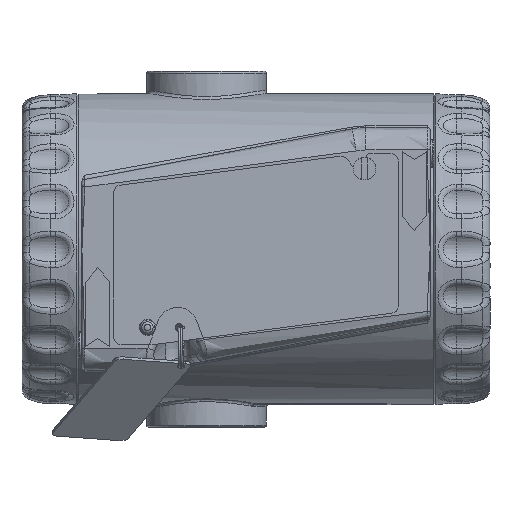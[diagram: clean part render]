
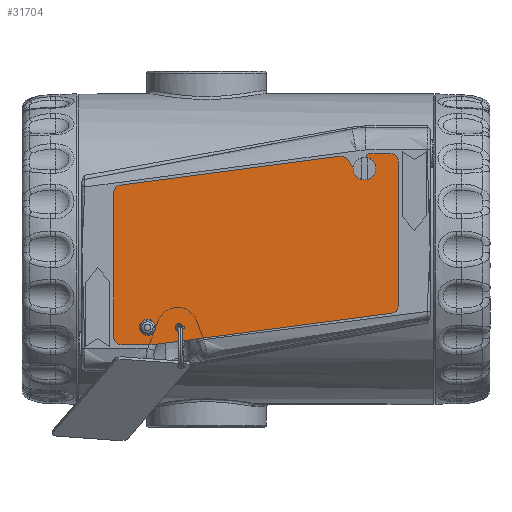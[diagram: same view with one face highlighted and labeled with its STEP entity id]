
A CAD part, left-side view. The second image highlights one B-rep face of the part: STEP entity #31704.
In plain terms, the highlighted planar face has unit normal (-1, 0, 0) as drawn and (0, 0, 1) by its records, which use the part's own axes.
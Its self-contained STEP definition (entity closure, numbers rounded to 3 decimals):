
#2472=FACE_BOUND('',#10369,.T.);
#2473=FACE_BOUND('',#10370,.T.);
#2994=PLANE('',#35740);
#4462=LINE('',#74141,#5971);
#4466=LINE('',#74153,#5975);
#4470=LINE('',#74165,#5979);
#4474=LINE('',#74177,#5983);
#4478=LINE('',#74189,#5987);
#4481=LINE('',#74195,#5990);
#4485=LINE('',#74207,#5994);
#4489=LINE('',#74218,#5998);
#5971=VECTOR('',#44258,10.);
#5975=VECTOR('',#44270,10.);
#5979=VECTOR('',#44282,10.);
#5983=VECTOR('',#44294,10.);
#5987=VECTOR('',#44306,10.);
#5990=VECTOR('',#44311,10.);
#5994=VECTOR('',#44323,10.);
#5998=VECTOR('',#44335,10.);
#8350=FACE_OUTER_BOUND('',#10368,.T.);
#10368=EDGE_LOOP('',(#29350,#29351,#29352,#29353,#29354,#29355,#29356,#29357,
#29358,#29359,#29360,#29361,#29362,#29363,#29364));
#10369=EDGE_LOOP('',(#29365));
#10370=EDGE_LOOP('',(#29366));
#12397=CIRCLE('',#35706,1.35);
#12399=CIRCLE('',#35709,1.);
#12400=CIRCLE('',#35711,2.);
#12402=CIRCLE('',#35715,2.);
#12404=CIRCLE('',#35719,1.);
#12406=CIRCLE('',#35723,2.);
#12408=CIRCLE('',#35727,2.);
#12410=CIRCLE('',#35732,2.);
#12412=CIRCLE('',#35736,2.);
#15276=VERTEX_POINT('',#74121);
#15278=VERTEX_POINT('',#74127);
#15279=VERTEX_POINT('',#74131);
#15280=VERTEX_POINT('',#74132);
#15283=VERTEX_POINT('',#74140);
#15285=VERTEX_POINT('',#74146);
#15287=VERTEX_POINT('',#74152);
#15289=VERTEX_POINT('',#74158);
#15291=VERTEX_POINT('',#74164);
#15293=VERTEX_POINT('',#74170);
#15295=VERTEX_POINT('',#74176);
#15297=VERTEX_POINT('',#74182);
#15299=VERTEX_POINT('',#74188);
#15301=VERTEX_POINT('',#74194);
#15303=VERTEX_POINT('',#74200);
#15305=VERTEX_POINT('',#74206);
#15307=VERTEX_POINT('',#74212);
#19958=EDGE_CURVE('',#15276,#15276,#12397,.T.);
#19961=EDGE_CURVE('',#15278,#15278,#12399,.T.);
#19962=EDGE_CURVE('',#15279,#15280,#12400,.T.);
#19966=EDGE_CURVE('',#15280,#15283,#4462,.T.);
#19969=EDGE_CURVE('',#15283,#15285,#12402,.T.);
#19972=EDGE_CURVE('',#15285,#15287,#4466,.T.);
#19975=EDGE_CURVE('',#15287,#15289,#12404,.T.);
#19978=EDGE_CURVE('',#15289,#15291,#4470,.T.);
#19981=EDGE_CURVE('',#15291,#15293,#12406,.T.);
#19984=EDGE_CURVE('',#15293,#15295,#4474,.T.);
#19987=EDGE_CURVE('',#15295,#15297,#12408,.T.);
#19990=EDGE_CURVE('',#15297,#15299,#4478,.T.);
#19993=EDGE_CURVE('',#15299,#15301,#4481,.T.);
#19996=EDGE_CURVE('',#15301,#15303,#12410,.T.);
#19999=EDGE_CURVE('',#15303,#15305,#4485,.T.);
#20002=EDGE_CURVE('',#15305,#15307,#12412,.T.);
#20005=EDGE_CURVE('',#15307,#15279,#4489,.T.);
#29350=ORIENTED_EDGE('',*,*,#19962,.F.);
#29351=ORIENTED_EDGE('',*,*,#20005,.F.);
#29352=ORIENTED_EDGE('',*,*,#20002,.F.);
#29353=ORIENTED_EDGE('',*,*,#19999,.F.);
#29354=ORIENTED_EDGE('',*,*,#19996,.F.);
#29355=ORIENTED_EDGE('',*,*,#19993,.F.);
#29356=ORIENTED_EDGE('',*,*,#19990,.F.);
#29357=ORIENTED_EDGE('',*,*,#19987,.F.);
#29358=ORIENTED_EDGE('',*,*,#19984,.F.);
#29359=ORIENTED_EDGE('',*,*,#19981,.F.);
#29360=ORIENTED_EDGE('',*,*,#19978,.F.);
#29361=ORIENTED_EDGE('',*,*,#19975,.F.);
#29362=ORIENTED_EDGE('',*,*,#19972,.F.);
#29363=ORIENTED_EDGE('',*,*,#19969,.F.);
#29364=ORIENTED_EDGE('',*,*,#19966,.F.);
#29365=ORIENTED_EDGE('',*,*,#19958,.T.);
#29366=ORIENTED_EDGE('',*,*,#19961,.T.);
#31704=ADVANCED_FACE('',(#8350,#2472,#2473),#2994,.T.);
#35706=AXIS2_PLACEMENT_3D('',#74123,#44239,#44240);
#35709=AXIS2_PLACEMENT_3D('',#74129,#44246,#44247);
#35711=AXIS2_PLACEMENT_3D('',#74133,#44250,#44251);
#35715=AXIS2_PLACEMENT_3D('',#74147,#44263,#44264);
#35719=AXIS2_PLACEMENT_3D('',#74159,#44275,#44276);
#35723=AXIS2_PLACEMENT_3D('',#74171,#44287,#44288);
#35727=AXIS2_PLACEMENT_3D('',#74183,#44299,#44300);
#35732=AXIS2_PLACEMENT_3D('',#74201,#44316,#44317);
#35736=AXIS2_PLACEMENT_3D('',#74213,#44328,#44329);
#35740=AXIS2_PLACEMENT_3D('',#74221,#44339,#44340);
#44239=DIRECTION('center_axis',(0.,0.,-1.));
#44240=DIRECTION('ref_axis',(-1.,0.,0.));
#44246=DIRECTION('center_axis',(0.,0.,-1.));
#44247=DIRECTION('ref_axis',(-1.,0.,0.));
#44250=DIRECTION('center_axis',(0.,0.,-1.));
#44251=DIRECTION('ref_axis',(0.766,0.643,0.));
#44258=DIRECTION('',(0.643,-0.766,0.));
#44263=DIRECTION('center_axis',(0.,0.,1.));
#44264=DIRECTION('ref_axis',(0.766,0.643,0.));
#44270=DIRECTION('',(-0.643,0.766,0.));
#44275=DIRECTION('center_axis',(0.,0.,-1.));
#44276=DIRECTION('ref_axis',(0.,1.,0.));
#44282=DIRECTION('',(1.,0.,0.));
#44287=DIRECTION('center_axis',(0.,0.,-1.));
#44288=DIRECTION('ref_axis',(1.,0.,0.));
#44294=DIRECTION('',(0.,-1.,0.));
#44299=DIRECTION('center_axis',(0.,0.,-1.));
#44300=DIRECTION('ref_axis',(0.131,-0.991,0.));
#44306=DIRECTION('',(-0.991,-0.131,0.));
#44311=DIRECTION('',(-1.,0.,0.));
#44316=DIRECTION('center_axis',(0.,0.,-1.));
#44317=DIRECTION('ref_axis',(-1.,0.,0.));
#44323=DIRECTION('',(0.,1.,0.));
#44328=DIRECTION('center_axis',(0.,0.,-1.));
#44329=DIRECTION('ref_axis',(-0.131,0.991,0.));
#44335=DIRECTION('',(0.991,0.131,0.));
#44339=DIRECTION('center_axis',(0.,0.,1.));
#44340=DIRECTION('ref_axis',(1.,0.,0.));
#74121=CARTESIAN_POINT('',(10.35,4.599,0.7));
#74123=CARTESIAN_POINT('Origin',(9.,4.599,0.7));
#74127=CARTESIAN_POINT('',(18.4,4.599,0.7));
#74129=CARTESIAN_POINT('Origin',(17.4,4.599,0.7));
#74131=CARTESIAN_POINT('',(60.389,50.327,0.7));
#74132=CARTESIAN_POINT('',(62.182,49.63,0.7));
#74133=CARTESIAN_POINT('Origin',(60.65,48.344,0.7));
#74140=CARTESIAN_POINT('',(65.468,45.714,0.7));
#74141=CARTESIAN_POINT('',(65.468,45.714,0.7));
#74146=CARTESIAN_POINT('',(68.532,48.286,0.7));
#74147=CARTESIAN_POINT('Origin',(67.,47.,0.7));
#74152=CARTESIAN_POINT('',(67.633,49.357,0.7));
#74153=CARTESIAN_POINT('',(67.633,49.357,0.7));
#74158=CARTESIAN_POINT('',(68.399,51.,0.7));
#74159=CARTESIAN_POINT('Origin',(68.399,50.,0.7));
#74164=CARTESIAN_POINT('',(74.,51.,0.7));
#74165=CARTESIAN_POINT('',(74.,51.,0.7));
#74170=CARTESIAN_POINT('',(76.,49.,0.7));
#74171=CARTESIAN_POINT('Origin',(74.,49.,0.7));
#74176=CARTESIAN_POINT('',(76.,10.377,0.7));
#74177=CARTESIAN_POINT('',(76.,10.377,0.7));
#74182=CARTESIAN_POINT('',(74.261,8.394,0.7));
#74183=CARTESIAN_POINT('Origin',(74.,10.377,0.7));
#74188=CARTESIAN_POINT('',(10.5,0.,0.7));
#74189=CARTESIAN_POINT('',(10.5,0.,0.7));
#74194=CARTESIAN_POINT('',(2.,0.,0.7));
#74195=CARTESIAN_POINT('',(2.,0.,0.7));
#74200=CARTESIAN_POINT('',(0.,2.,0.7));
#74201=CARTESIAN_POINT('Origin',(2.,2.,0.7));
#74206=CARTESIAN_POINT('',(0.,40.623,0.7));
#74207=CARTESIAN_POINT('',(0.,40.623,0.7));
#74212=CARTESIAN_POINT('',(1.739,42.606,0.7));
#74213=CARTESIAN_POINT('Origin',(2.,40.623,0.7));
#74218=CARTESIAN_POINT('',(60.389,50.327,0.7));
#74221=CARTESIAN_POINT('Origin',(39.077,26.228,0.7));
